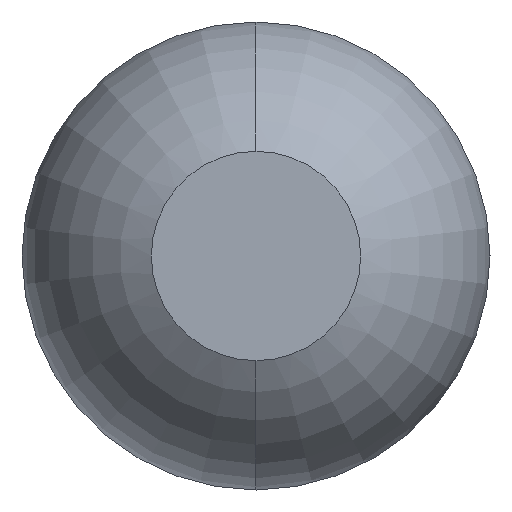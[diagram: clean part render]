
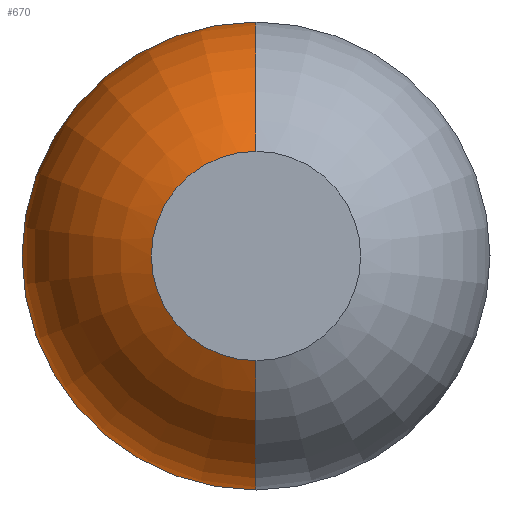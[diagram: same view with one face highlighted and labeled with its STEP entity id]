
A CAD part, left-side view. The second image highlights one B-rep face of the part: STEP entity #670.
In plain terms, the highlighted toroidal (fillet/blend) face has major radius 0.003 mm and minor radius 0.508 mm.
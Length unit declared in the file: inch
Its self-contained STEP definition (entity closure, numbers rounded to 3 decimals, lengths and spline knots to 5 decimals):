
#18 = CIRCLE ( 'NONE', #631, 0.02012 ) ;
#44 = EDGE_LOOP ( 'NONE', ( #179, #267, #638, #321 ) ) ;
#160 = DIRECTION ( 'NONE',  ( 0., -1., 0. ) ) ;
#163 = AXIS2_PLACEMENT_3D ( 'NONE', #393, #164, #711 ) ;
#164 = DIRECTION ( 'NONE',  ( 1., 0., 0. ) ) ;
#166 = VERTEX_POINT ( 'NONE', #499 ) ;
#167 = DIRECTION ( 'NONE',  ( 0., 0., -1. ) ) ;
#179 = ORIENTED_EDGE ( 'NONE', *, *, #644, .T. ) ;
#219 = DIRECTION ( 'NONE',  ( 0., 0., -1. ) ) ;
#225 = DIRECTION ( 'NONE',  ( 0., 0., 1. ) ) ;
#261 = CIRCLE ( 'NONE', #163, 0.009 ) ;
#264 = DIRECTION ( 'NONE',  ( 1., 0., 0. ) ) ;
#267 = ORIENTED_EDGE ( 'NONE', *, *, #554, .T. ) ;
#292 = AXIS2_PLACEMENT_3D ( 'NONE', #552, #494, #219 ) ;
#319 = DIRECTION ( 'NONE',  ( 0., 0., -1. ) ) ;
#321 = ORIENTED_EDGE ( 'NONE', *, *, #539, .F. ) ;
#331 = CARTESIAN_POINT ( 'NONE',  ( 0.01792, 0., 0.00012 ) ) ;
#336 = VERTEX_POINT ( 'NONE', #351 ) ;
#346 = TOROIDAL_SURFACE ( 'NONE', #292, 0.00012, 0.02 ) ;
#351 = CARTESIAN_POINT ( 'NONE',  ( 0.01792, 0., 0.02012 ) ) ;
#373 = VERTEX_POINT ( 'NONE', #584 ) ;
#393 = CARTESIAN_POINT ( 'NONE',  ( 0., 0., 0. ) ) ;
#403 = EDGE_CURVE ( 'NONE', #373, #336, #18, .T. ) ;
#432 = AXIS2_PLACEMENT_3D ( 'NONE', #673, #160, #167 ) ;
#494 = DIRECTION ( 'NONE',  ( 1., 0., 0. ) ) ;
#499 = CARTESIAN_POINT ( 'NONE',  ( 0., 0., -0.009 ) ) ;
#505 = VERTEX_POINT ( 'NONE', #637 ) ;
#539 = EDGE_CURVE ( 'NONE', #166, #373, #656, .T. ) ;
#549 = FACE_OUTER_BOUND ( 'NONE', #44, .T. ) ;
#552 = CARTESIAN_POINT ( 'NONE',  ( 0.01792, 0., 0. ) ) ;
#554 = EDGE_CURVE ( 'NONE', #505, #336, #640, .T. ) ;
#584 = CARTESIAN_POINT ( 'NONE',  ( 0.01792, 0., -0.02012 ) ) ;
#588 = CARTESIAN_POINT ( 'NONE',  ( 0.01792, 0., 0. ) ) ;
#631 = AXIS2_PLACEMENT_3D ( 'NONE', #588, #264, #319 ) ;
#637 = CARTESIAN_POINT ( 'NONE',  ( 0., 0., 0.009 ) ) ;
#638 = ORIENTED_EDGE ( 'NONE', *, *, #403, .F. ) ;
#640 = CIRCLE ( 'NONE', #666, 0.02 ) ;
#644 = EDGE_CURVE ( 'NONE', #166, #505, #261, .T. ) ;
#656 = CIRCLE ( 'NONE', #432, 0.02 ) ;
#661 = DIRECTION ( 'NONE',  ( 0., 1., 0. ) ) ;
#666 = AXIS2_PLACEMENT_3D ( 'NONE', #331, #661, #225 ) ;
#670 = ADVANCED_FACE ( 'NONE', ( #549 ), #346, .T. ) ;
#673 = CARTESIAN_POINT ( 'NONE',  ( 0.01792, 0., -0.00012 ) ) ;
#711 = DIRECTION ( 'NONE',  ( 0., 0., -1. ) ) ;
